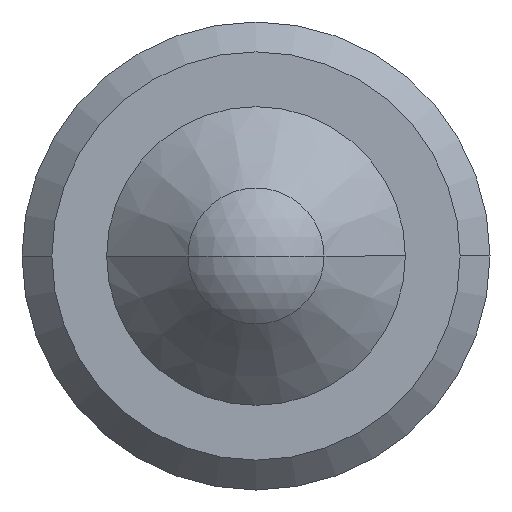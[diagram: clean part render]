
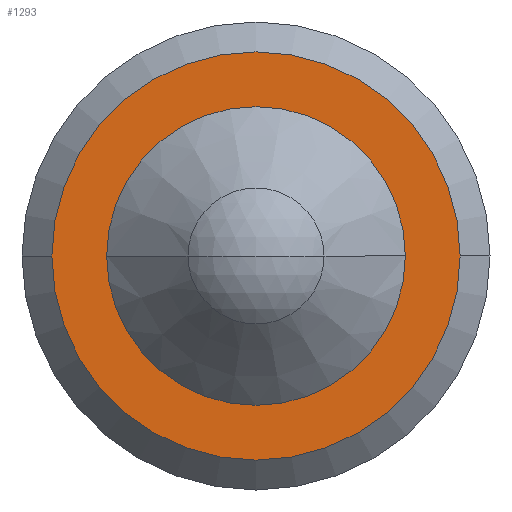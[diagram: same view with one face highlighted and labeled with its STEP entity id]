
A CAD part, front view. The second image highlights one B-rep face of the part: STEP entity #1293.
In plain terms, the highlighted planar face has unit normal (0, -1, 0).
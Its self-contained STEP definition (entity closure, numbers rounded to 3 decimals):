
#9 = PLANE ( 'NONE',  #1135 ) ;
#16 = DIRECTION ( 'NONE',  ( 0., 1., 0. ) ) ;
#24 = CARTESIAN_POINT ( 'NONE',  ( 2.35, 4.075, 0. ) ) ;
#27 = DIRECTION ( 'NONE',  ( -1., 0., 0. ) ) ;
#33 = FACE_OUTER_BOUND ( 'NONE', #474, .T. ) ;
#50 = FACE_BOUND ( 'NONE', #511, .T. ) ;
#474 = EDGE_LOOP ( 'NONE', ( #579, #616 ) ) ;
#511 = EDGE_LOOP ( 'NONE', ( #588, #594 ) ) ;
#579 = ORIENTED_EDGE ( 'NONE', *, *, #1649, .T. ) ;
#588 = ORIENTED_EDGE ( 'NONE', *, *, #1268, .T. ) ;
#594 = ORIENTED_EDGE ( 'NONE', *, *, #1667, .T. ) ;
#616 = ORIENTED_EDGE ( 'NONE', *, *, #1246, .T. ) ;
#754 = VERTEX_POINT ( 'NONE', #866 ) ;
#771 = VERTEX_POINT ( 'NONE', #834 ) ;
#779 = VERTEX_POINT ( 'NONE', #837 ) ;
#803 = VERTEX_POINT ( 'NONE', #950 ) ;
#834 = CARTESIAN_POINT ( 'NONE',  ( -2.05, 4.075, 0. ) ) ;
#837 = CARTESIAN_POINT ( 'NONE',  ( 2.05, 4.075, 0. ) ) ;
#866 = CARTESIAN_POINT ( 'NONE',  ( -1.45, 4.075, 0. ) ) ;
#920 = CARTESIAN_POINT ( 'NONE',  ( 0., 4.075, 0. ) ) ;
#921 = DIRECTION ( 'NONE',  ( 0., -1., 0. ) ) ;
#928 = DIRECTION ( 'NONE',  ( -1., 0., 0. ) ) ;
#950 = CARTESIAN_POINT ( 'NONE',  ( 1.45, 4.075, 0. ) ) ;
#1002 = DIRECTION ( 'NONE',  ( -1., 0., 0. ) ) ;
#1021 = DIRECTION ( 'NONE',  ( 0., 1., 0. ) ) ;
#1033 = CARTESIAN_POINT ( 'NONE',  ( 0., 4.075, 0. ) ) ;
#1080 = CIRCLE ( 'NONE', #1111, 2.05 ) ;
#1111 = AXIS2_PLACEMENT_3D ( 'NONE', #920, #921, #928 ) ;
#1114 = AXIS2_PLACEMENT_3D ( 'NONE', #1033, #1021, #1002 ) ;
#1133 = CIRCLE ( 'NONE', #1114, 1.45 ) ;
#1135 = AXIS2_PLACEMENT_3D ( 'NONE', #24, #16, #27 ) ;
#1193 = CIRCLE ( 'NONE', #1211, 2.05 ) ;
#1200 = AXIS2_PLACEMENT_3D ( 'NONE', #1633, #1639, #1636 ) ;
#1207 = CIRCLE ( 'NONE', #1200, 1.45 ) ;
#1211 = AXIS2_PLACEMENT_3D ( 'NONE', #1601, #1621, #1605 ) ;
#1246 = EDGE_CURVE ( 'NONE', #779, #771, #1080, .T. ) ;
#1268 = EDGE_CURVE ( 'NONE', #754, #803, #1133, .T. ) ;
#1293 = ADVANCED_FACE ( 'NONE', ( #33, #50 ), #9, .F. ) ;
#1601 = CARTESIAN_POINT ( 'NONE',  ( 0., 4.075, 0. ) ) ;
#1605 = DIRECTION ( 'NONE',  ( -1., 0., 0. ) ) ;
#1621 = DIRECTION ( 'NONE',  ( 0., -1., 0. ) ) ;
#1633 = CARTESIAN_POINT ( 'NONE',  ( 0., 4.075, 0. ) ) ;
#1636 = DIRECTION ( 'NONE',  ( -1., 0., 0. ) ) ;
#1639 = DIRECTION ( 'NONE',  ( 0., 1., 0. ) ) ;
#1649 = EDGE_CURVE ( 'NONE', #771, #779, #1193, .T. ) ;
#1667 = EDGE_CURVE ( 'NONE', #803, #754, #1207, .T. ) ;
